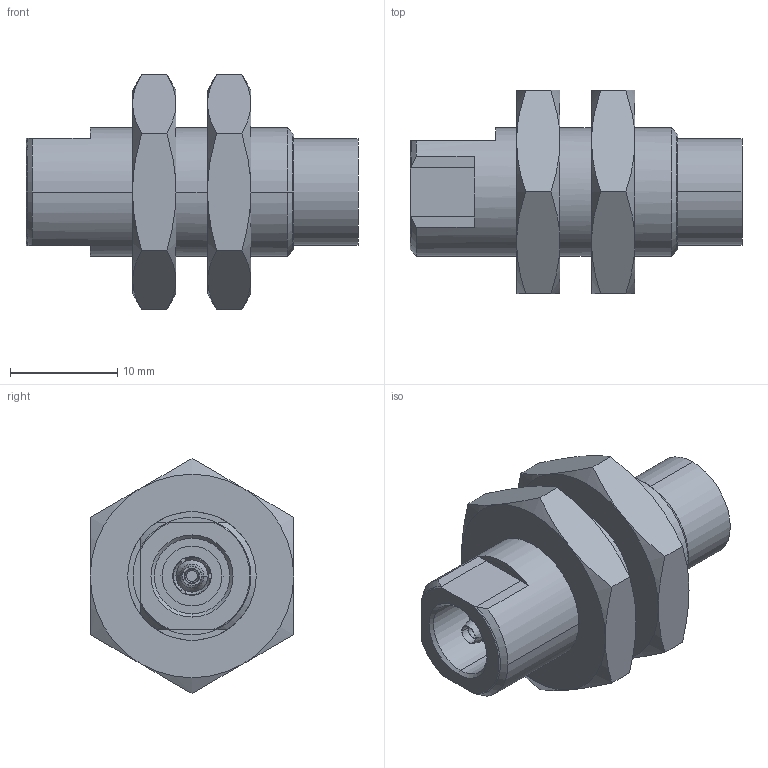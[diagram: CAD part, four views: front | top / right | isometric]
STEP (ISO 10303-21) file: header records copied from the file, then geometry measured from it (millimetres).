
FILE_DESCRIPTION((''),'2;1');
FILE_NAME('EU3_ASM','2008-09-19T',('11000205'),(''),'PRO/ENGINEER BY PARAMETRIC TECHNOLOGY CORPORATION, 2006460','PRO/ENGINEER BY PARAMETRIC TECHNOLOGY CORPORATION, 2006460','');
FILE_SCHEMA(('CONFIG_CONTROL_DESIGN'));
Length unit declared in the file: millimetre
Products named in the file (4): EU3; MUTTER-SW19; ZFG0_134; EU3_ASM
Assembly tree (4 placements, depth 2):
  EU3_ASM
    EU3
    MUTTER-SW19  x2
    ZFG0_134
Bounding box: 31 x 19 x 21.94 mm (x, y, z)
Volume: 4657 mm3; surface area: 4837.7 mm2
Topology: 4 solids, 7 shells, 824 faces, 2328 edges, 1529 vertices
Faces by surface type: plane 672, cylinder 77, cone 70, torus 5
Entity records: 26023 total; most frequent: CARTESIAN_POINT 5100, ORIENTED_EDGE 4512, DIRECTION 4028, EDGE_CURVE 2266, VECTOR 1916, LINE 1916, VERTEX_POINT 1493, AXIS2_PLACEMENT_3D 1056
